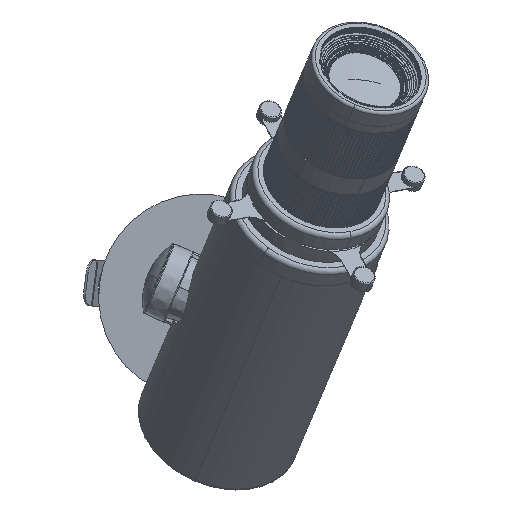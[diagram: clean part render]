
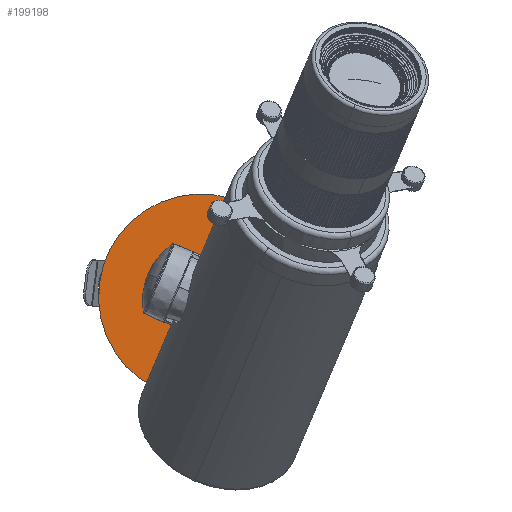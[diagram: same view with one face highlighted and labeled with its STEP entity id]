
A CAD part, front view. The second image highlights one B-rep face of the part: STEP entity #199198.
In plain terms, the highlighted planar face has unit normal (0, -1, 0) as drawn and (-1, 0, 0) by its records, which use the part's own axes.
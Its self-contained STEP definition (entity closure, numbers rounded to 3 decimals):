
#14119 = EDGE_CURVE ( 'NONE', #191210, #88029, #243274, .T. ) ;
#15334 = ORIENTED_EDGE ( 'NONE', *, *, #22729, .T. ) ;
#18988 = AXIS2_PLACEMENT_3D ( 'NONE', #31126, #158478, #218261 ) ;
#22729 = EDGE_CURVE ( 'NONE', #88029, #191210, #32914, .T. ) ;
#28637 = DIRECTION ( 'NONE',  ( 1., 0., 0. ) ) ;
#31126 = CARTESIAN_POINT ( 'NONE',  ( 103.786, 981.753, -5.878 ) ) ;
#32914 = CIRCLE ( 'NONE', #66155, 5.25 ) ;
#36425 = FACE_OUTER_BOUND ( 'NONE', #113502, .T. ) ;
#37710 = CARTESIAN_POINT ( 'NONE',  ( 103.786, 981.753, -5.878 ) ) ;
#41023 = ORIENTED_EDGE ( 'NONE', *, *, #55388, .T. ) ;
#44368 = CARTESIAN_POINT ( 'NONE',  ( 103.786, 981.753, -5.878 ) ) ;
#55388 = EDGE_CURVE ( 'NONE', #59834, #204157, #182330, .T. ) ;
#59834 = VERTEX_POINT ( 'NONE', #179178 ) ;
#66155 = AXIS2_PLACEMENT_3D ( 'NONE', #124968, #28637, #204275 ) ;
#70183 = AXIS2_PLACEMENT_3D ( 'NONE', #44368, #104237, #123737 ) ;
#73281 = CIRCLE ( 'NONE', #106569, 31.5 ) ;
#88029 = VERTEX_POINT ( 'NONE', #93887 ) ;
#93887 = CARTESIAN_POINT ( 'NONE',  ( 103.786, 986.962, -5.22 ) ) ;
#100097 = ORIENTED_EDGE ( 'NONE', *, *, #172067, .T. ) ;
#102401 = EDGE_LOOP ( 'NONE', ( #15334, #238703 ) ) ;
#104237 = DIRECTION ( 'NONE',  ( -1., 0., 0. ) ) ;
#106569 = AXIS2_PLACEMENT_3D ( 'NONE', #215820, #214545, #257435 ) ;
#113502 = EDGE_LOOP ( 'NONE', ( #41023, #100097 ) ) ;
#114523 = FACE_BOUND ( 'NONE', #102401, .T. ) ;
#117084 = DIRECTION ( 'NONE',  ( 0., 1., 0. ) ) ;
#123737 = DIRECTION ( 'NONE',  ( 0., 0.992, 0.125 ) ) ;
#124968 = CARTESIAN_POINT ( 'NONE',  ( 103.786, 981.753, -5.878 ) ) ;
#125410 = CARTESIAN_POINT ( 'NONE',  ( 103.786, 950.502, -9.824 ) ) ;
#150962 = DIRECTION ( 'NONE',  ( -1., 0., 0. ) ) ;
#156063 = PLANE ( 'NONE',  #218851 ) ;
#158478 = DIRECTION ( 'NONE',  ( 1., 0., 0. ) ) ;
#172067 = EDGE_CURVE ( 'NONE', #204157, #59834, #73281, .T. ) ;
#179178 = CARTESIAN_POINT ( 'NONE',  ( 103.786, 1013.005, -1.931 ) ) ;
#182330 = CIRCLE ( 'NONE', #70183, 31.5 ) ;
#191210 = VERTEX_POINT ( 'NONE', #236735 ) ;
#199198 = ADVANCED_FACE ( 'NONE', ( #114523, #36425 ), #156063, .T. ) ;
#204157 = VERTEX_POINT ( 'NONE', #125410 ) ;
#204275 = DIRECTION ( 'NONE',  ( 0., 0.992, 0.125 ) ) ;
#214545 = DIRECTION ( 'NONE',  ( -1., 0., 0. ) ) ;
#215820 = CARTESIAN_POINT ( 'NONE',  ( 103.786, 981.753, -5.878 ) ) ;
#218261 = DIRECTION ( 'NONE',  ( 0., -0.992, -0.125 ) ) ;
#218851 = AXIS2_PLACEMENT_3D ( 'NONE', #37710, #150962, #117084 ) ;
#236735 = CARTESIAN_POINT ( 'NONE',  ( 103.786, 976.545, -6.535 ) ) ;
#238703 = ORIENTED_EDGE ( 'NONE', *, *, #14119, .T. ) ;
#243274 = CIRCLE ( 'NONE', #18988, 5.25 ) ;
#257435 = DIRECTION ( 'NONE',  ( 0., -0.992, -0.125 ) ) ;
